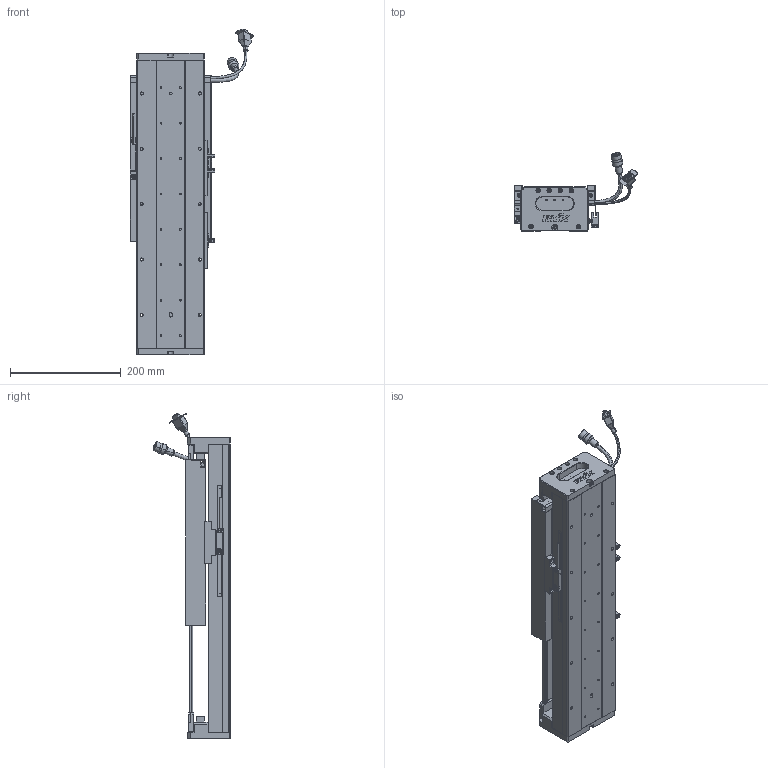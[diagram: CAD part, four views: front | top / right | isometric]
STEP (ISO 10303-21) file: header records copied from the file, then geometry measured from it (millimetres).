
FILE_DESCRIPTION (( 'STEP AP203' ), '1' );
FILE_NAME ('Z4-RY120D-1-L500-B-K.SLDASM_0150.step', '2021-05-17T06:05:41', ( '盈信电脑' ), ( '东莞市道滘镇水果街19号' ), 'SwSTEP 2.0', 'SolidWorks 2016', '' );
FILE_SCHEMA (( 'CONFIG_CONTROL_DESIGN' ));
Length unit declared in the file: millimetre
Products named in the file (37): LABEL-Part-1; 672嫖萇羲壽假蚾釱; SCALE; SEAL-Part-1; Z4-RY120铝滑块（21款）; 080黍杅芛假蚾釱21遴; 140雄赽晤鎢ん堤盄; 140蚥薯蝶輸; SCREW-M1.7; HARNESS-Part-2; SCREW-M1.6; Z4-RY120D-1-L500-B-K.SLDASM_0150; SCREW-M1.6-2; COVER-Part-1; Z4-RY120-L500詩湍100mm遵_0150; SEAL; SCREW-M1.6-3; PSLH080_PSLF2; COVER; RY100FB-遵嫖萇覜茼え; SCALE-Part-1; HOLDER0; SCALE-Part-2; LABEL; SHIELDPLATE; HARNESS-Part-1; HARNESS; 120-Z-臏賑輸盄裔(21遴); Z-120詩湍傷裔啣; 覜茼ん672; SCREW-M1.7-1; PBU_SHEET; Z4-RY120-500-倰第菁釱_0150; SCREW-M1.6-1; Z-RY120D詩湍狟揤裔; 榋妏寠巭燃_暯_M2_2; Z-RY120D詩湍奻揤裔
Assembly tree (43 placements, depth 4):
  Z4-RY120D-1-L500-B-K.SLDASM_0150
    Z4-RY120-500-倰第菁釱_0150
    覜茼ん672  x3
    672嫖萇羲壽假蚾釱  x2
    Z4-RY120铝滑块（21款）
    PSLH080_PSLF2
      SCALE
        SCALE-Part-1
        SCALE-Part-2
      HARNESS
        HARNESS-Part-1
        HARNESS-Part-2
      LABEL
        LABEL-Part-1
      COVER
        COVER-Part-1
      SEAL
        SEAL-Part-1
      榋妏寠巭燃_暯_M2_2
      SHIELDPLATE
      SCREW-M1.7
      SCREW-M1.7-1
      PBU_SHEET
      SCREW-M1.6
      SCREW-M1.6-1
      SCREW-M1.6-2
      SCREW-M1.6-3
      HOLDER0
    080黍杅芛假蚾釱21遴
    120-Z-臏賑輸盄裔(21遴)
    140雄赽晤鎢ん堤盄
    140蚥薯蝶輸  x2
    RY100FB-遵嫖萇覜茼え
    Z-120詩湍傷裔啣  x2
    Z-RY120D詩湍奻揤裔  x2
    Z-RY120D詩湍狟揤裔  x2
    Z4-RY120-L500詩湍100mm遵_0150
Bounding box: 222.88 x 140.94 x 589 mm (x, y, z)
Volume: 2258107.1 mm3; surface area: 685921.9 mm2
Topology: 38 solids, 38 shells, 2537 faces, 6680 edges, 4220 vertices
Faces by surface type: cylinder 1088, plane 1081, cone 246, torus 69, bspline 53
Entity records: 72093 total; most frequent: CARTESIAN_POINT 17646, DIRECTION 10610, ORIENTED_EDGE 10392, EDGE_CURVE 5196, AXIS2_PLACEMENT_3D 3866, VERTEX_POINT 3340, VECTOR 2878, LINE 2878
